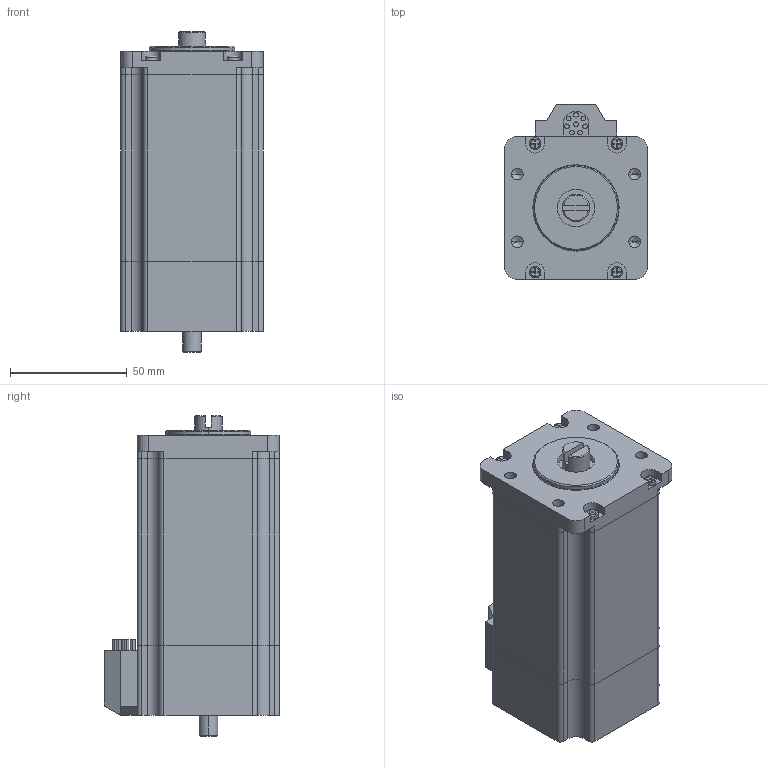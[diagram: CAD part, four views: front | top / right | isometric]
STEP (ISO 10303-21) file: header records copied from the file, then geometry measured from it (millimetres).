
FILE_DESCRIPTION (( 'STEP AP214' ), '1' );
FILE_NAME ('PBL60.STEP', '2021-09-07T09:17:50', ( '' ), ( '' ), 'SwSTEP 2.0', 'SolidWorks 2020', '' );
FILE_SCHEMA (( 'AUTOMOTIVE_DESIGN' ));
Length unit declared in the file: millimetre
Products named in the file (1): PBL60
Bounding box: 61 x 75 x 137.5 mm (x, y, z)
Volume: 419462 mm3; surface area: 54841.5 mm2
Topology: 9 solids, 9 shells, 318 faces, 815 edges, 532 vertices
Faces by surface type: plane 157, cylinder 137, cone 14, torus 10
Entity records: 12780 total; most frequent: DIRECTION 1745, CARTESIAN_POINT 1670, ORIENTED_EDGE 1614, EDGE_CURVE 807, AXIS2_PLACEMENT_3D 623, VERTEX_POINT 532, LINE 499, VECTOR 499
